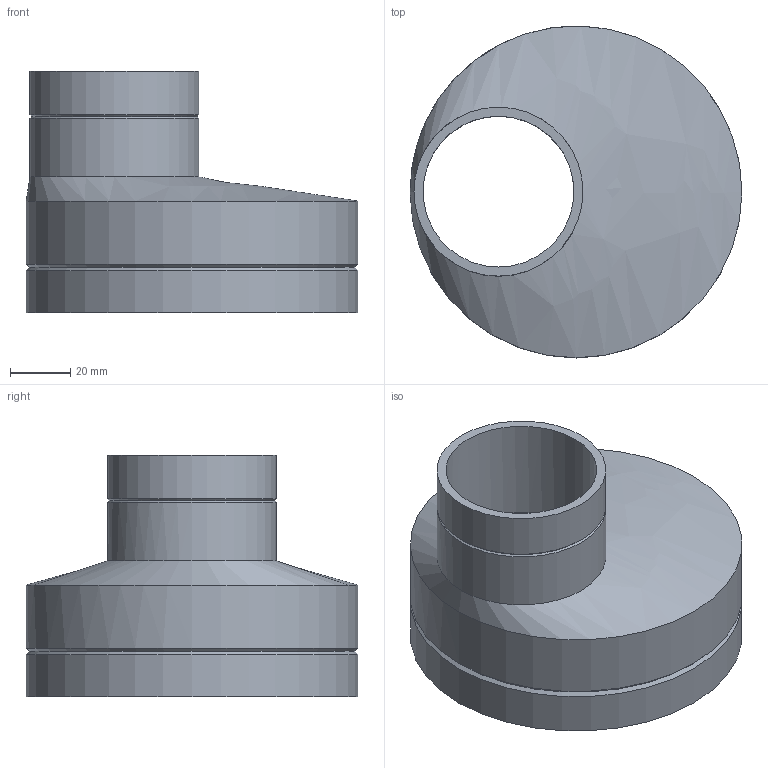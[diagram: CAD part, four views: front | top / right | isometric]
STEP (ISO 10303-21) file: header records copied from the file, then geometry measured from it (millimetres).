
FILE_DESCRIPTION(/* description */ (''),/* implementation_level */ '2;1');
FILE_NAME(/* name */ 'Z:\Geberit\Export\NewStep\367566.stp',/* time_stamp */ '2014-04-02T07:57:38+02:00',/* author */ ('nelson'),/* organization */ (''),/* preprocessor_version */ 'ST-DEVELOPER v15.2',/* originating_system */ 'Autodesk Inventor 2014',/* authorisation */ '');
FILE_SCHEMA (('AUTOMOTIVE_DESIGN { 1 0 10303 214 3 1 1 }'));
Length unit declared in the file: millimetre
Products named in the file (1): 367566
Bounding box: 110 x 110 x 80 mm (x, y, z)
Volume: 77237.5 mm3; surface area: 52836.7 mm2
Topology: 1 solids, 1 shells, 14 faces, 35 edges, 23 vertices
Faces by surface type: cylinder 6, cone 4, bspline 2, plane 2
Full cylindrical faces by diameter (mm): 50 x1, 56 x2, 101.4 x1, 110 x2
Entity records: 397 total; most frequent: CARTESIAN_POINT 89, DIRECTION 62, ORIENTED_EDGE 40, AXIS2_PLACEMENT_3D 31, EDGE_LOOP 26, EDGE_CURVE 20, CIRCLE 18, VERTEX_POINT 18
